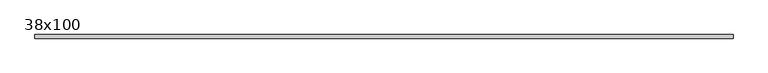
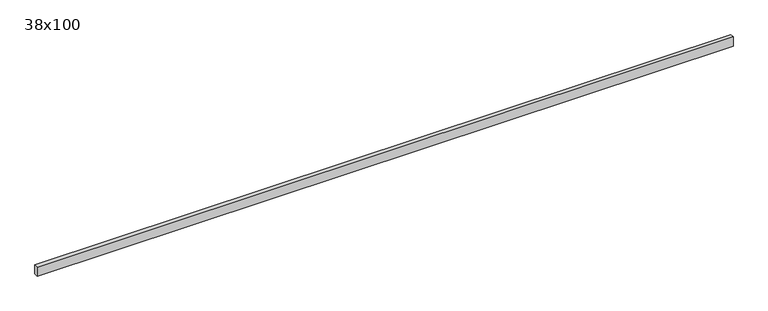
"""IFC4 building model written with IfcOpenShell, lengths in millimetres: beam geometry, Poutre - Bois de construction de dimensions courantes : 38x100."""

from ifc_helpers import new_model, si_unit, frame, origin, place, context, project, spatial, polyline, outline, extrude, source, transform, mapped, element, save


def beam_38x100_11f139c2(model_context):
    return source(origin(), model_context, "Body", "SweptSolid", [
        extrude(outline(polyline([(3650.0, 19.05), (3650.0, -19.05), (-3650.0, -19.05), (-3650.0, 19.05), (3650.0, 19.05)])), frame((0.0, 0.0, -50.0), z_axis=(0.0, 0.0, 1.0), x_axis=(1.0, 0.0, 0.0)), (0.0, 0.0, 1.0), 100.0),
    ])


if __name__ == "__main__":
    model = new_model("IFC4")
    model_context = context("Model", 3, world=origin())
    ifc_project = project(units=[si_unit("LENGTHUNIT", "METRE", prefix="MILLI")], contexts=[model_context])
    site = spatial("IfcSite", under=ifc_project)
    building = spatial("IfcBuilding", under=site)
    placement = place(None, origin())
    beam_38x100_shape = beam_38x100_11f139c2(model_context)
    element("IfcBeam", 1, ObjectType="Poutre - Bois de construction de dimensions courantes : 38x100", at=placement, inside=building, context=model_context, shape_type="MappedRepresentation", body=[
        mapped(beam_38x100_shape, transform((0.0, 0.0, 0.0), x_axis=(1.0, 0.0, 0.0), y_axis=(0.0, 1.0, 0.0), z_axis=(0.0, 0.0, 1.0))),
    ])
    save(model, "model.ifc")
